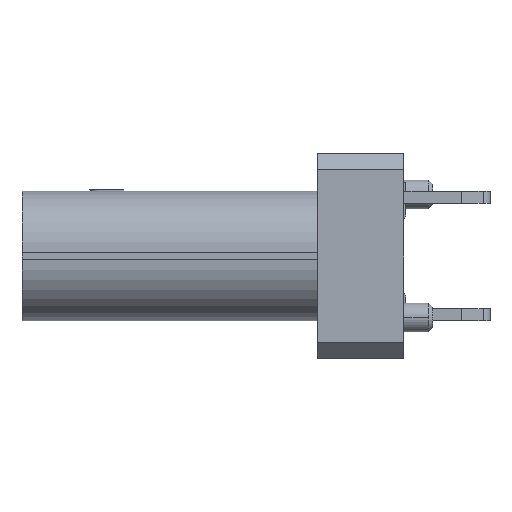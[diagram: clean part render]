
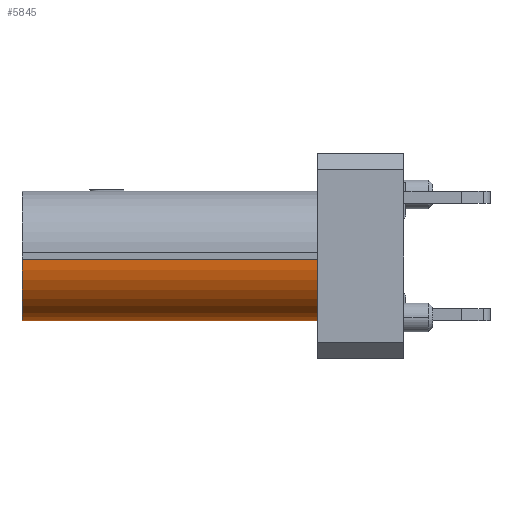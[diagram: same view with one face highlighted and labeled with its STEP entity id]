
A CAD part, left-side view. The second image highlights one B-rep face of the part: STEP entity #5845.
In plain terms, the highlighted cylindrical face has radius 1.5 mm (diameter 3 mm), a partial arc.
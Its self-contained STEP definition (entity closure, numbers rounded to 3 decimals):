
#31 = VERTEX_POINT ( 'NONE', #3708 ) ;
#339 = VERTEX_POINT ( 'NONE', #6253 ) ;
#733 = DIRECTION ( 'NONE',  ( 0., -1., 0. ) ) ;
#825 = VECTOR ( 'NONE', #16175, 1000. ) ;
#1154 = AXIS2_PLACEMENT_3D ( 'NONE', #3405, #4749, #7438 ) ;
#2334 = VERTEX_POINT ( 'NONE', #3680 ) ;
#3343 = ORIENTED_EDGE ( 'NONE', *, *, #8400, .F. ) ;
#3405 = CARTESIAN_POINT ( 'NONE',  ( 21.705, -23.049, -1.66 ) ) ;
#3680 = CARTESIAN_POINT ( 'NONE',  ( 21.705, -23.049, -3.16 ) ) ;
#3708 = CARTESIAN_POINT ( 'NONE',  ( 20.205, -23.049, -1.66 ) ) ;
#4749 = DIRECTION ( 'NONE',  ( 0., 1., 0. ) ) ;
#5845 = ADVANCED_FACE ( 'NONE', ( #15439 ), #8206, .T. ) ;
#6153 = LINE ( 'NONE', #12070, #825 ) ;
#6184 = EDGE_CURVE ( 'NONE', #339, #31, #12233, .T. ) ;
#6253 = CARTESIAN_POINT ( 'NONE',  ( 20.205, -15.849, -1.66 ) ) ;
#7338 = CIRCLE ( 'NONE', #11618, 1.5 ) ;
#7438 = DIRECTION ( 'NONE',  ( 0., 0., -1. ) ) ;
#7751 = DIRECTION ( 'NONE',  ( 0., -1., 0. ) ) ;
#7937 = ORIENTED_EDGE ( 'NONE', *, *, #13568, .T. ) ;
#8206 = CYLINDRICAL_SURFACE ( 'NONE', #12649, 1.5 ) ;
#8400 = EDGE_CURVE ( 'NONE', #2334, #18812, #6153, .T. ) ;
#11618 = AXIS2_PLACEMENT_3D ( 'NONE', #13194, #17486, #14711 ) ;
#11830 = EDGE_CURVE ( 'NONE', #339, #18812, #7338, .T. ) ;
#12070 = CARTESIAN_POINT ( 'NONE',  ( 21.705, -23.049, -3.16 ) ) ;
#12140 = ORIENTED_EDGE ( 'NONE', *, *, #11830, .T. ) ;
#12233 = LINE ( 'NONE', #18848, #12948 ) ;
#12649 = AXIS2_PLACEMENT_3D ( 'NONE', #14101, #733, #14015 ) ;
#12948 = VECTOR ( 'NONE', #7751, 1000. ) ;
#13194 = CARTESIAN_POINT ( 'NONE',  ( 21.705, -15.849, -1.66 ) ) ;
#13568 = EDGE_CURVE ( 'NONE', #2334, #31, #16101, .T. ) ;
#14015 = DIRECTION ( 'NONE',  ( 1., 0., 0. ) ) ;
#14101 = CARTESIAN_POINT ( 'NONE',  ( 21.705, -8.049, -1.66 ) ) ;
#14711 = DIRECTION ( 'NONE',  ( -1., 0., 0. ) ) ;
#14861 = EDGE_LOOP ( 'NONE', ( #16213, #12140, #3343, #7937 ) ) ;
#15439 = FACE_OUTER_BOUND ( 'NONE', #14861, .T. ) ;
#16101 = CIRCLE ( 'NONE', #1154, 1.5 ) ;
#16175 = DIRECTION ( 'NONE',  ( 0., 1., 0. ) ) ;
#16213 = ORIENTED_EDGE ( 'NONE', *, *, #6184, .F. ) ;
#17486 = DIRECTION ( 'NONE',  ( 0., -1., 0. ) ) ;
#18812 = VERTEX_POINT ( 'NONE', #18878 ) ;
#18848 = CARTESIAN_POINT ( 'NONE',  ( 20.205, -15.149, -1.66 ) ) ;
#18878 = CARTESIAN_POINT ( 'NONE',  ( 21.705, -15.849, -3.16 ) ) ;
